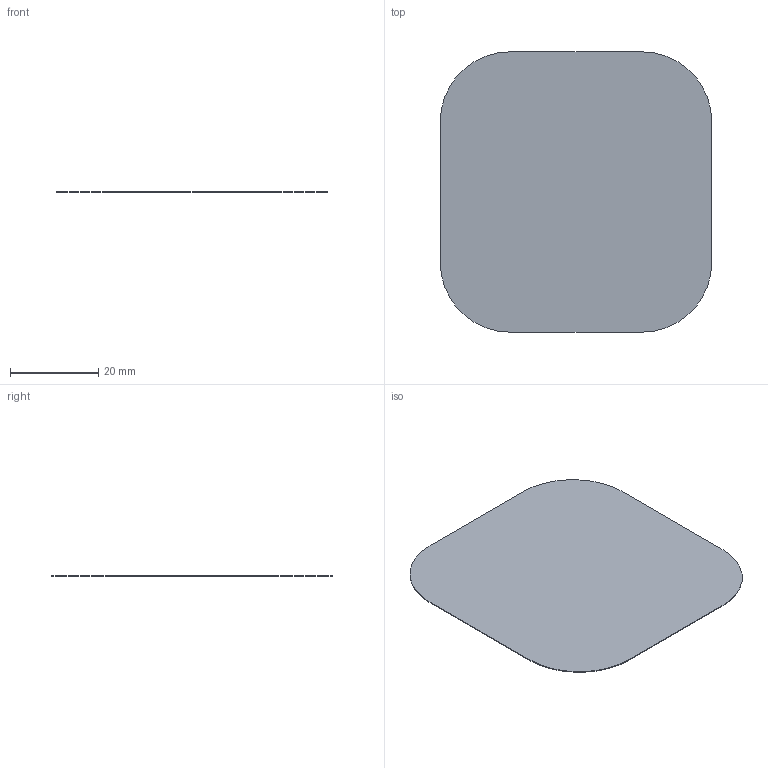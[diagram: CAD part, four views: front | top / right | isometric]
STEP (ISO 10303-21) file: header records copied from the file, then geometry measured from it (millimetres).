
FILE_DESCRIPTION(/* description */ ('Acoustically permeable black textile, modeled as a sheet envelope. Not a solid plastic part. Material/transmission must be qualified.'),/* implementation_level */ '2;1');
FILE_NAME(/* name */ '08_Acoustic_backing_REFERENCE.step',/* time_stamp */ '2026-09-08T11:10:43-07:00',/* author */ (''),/* organization */ (''),/* preprocessor_version */ 'ST-DEVELOPER v20.1',/* originating_system */ 'Autodesk Translation Framework v15.8.0.0',/* authorisation */ '');
FILE_SCHEMA (('AUTOMOTIVE_DESIGN { 1 0 10303 214 3 1 1 }'));
Length unit declared in the file: centimetre
Products named in the file (1): 2026-09-08-11-10-43-340
Bounding box: 61.5 x 63.5 x 0.15 mm (x, y, z)
Volume: 553.8 mm3; surface area: 7418.1 mm2
Topology: 1 solids, 1 shells, 10 faces, 24 edges, 16 vertices
Faces by surface type: plane 6, cylinder 4
Entity records: 336 total; most frequent: DIRECTION 54, CARTESIAN_POINT 51, ORIENTED_EDGE 48, EDGE_CURVE 24, AXIS2_PLACEMENT_3D 19, LINE 16, VECTOR 16, VERTEX_POINT 16
